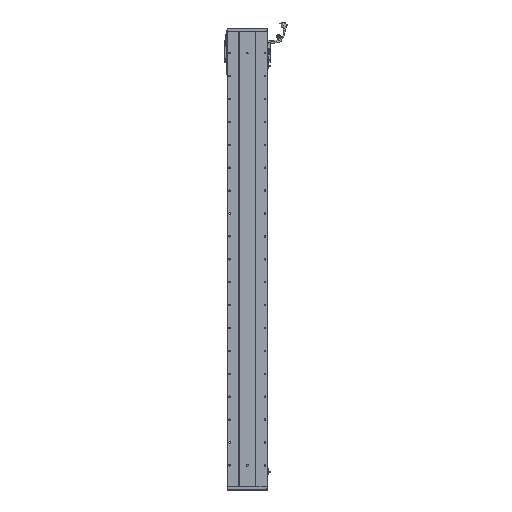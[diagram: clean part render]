
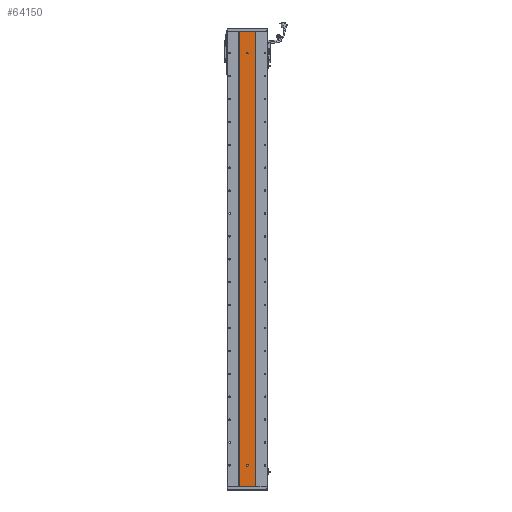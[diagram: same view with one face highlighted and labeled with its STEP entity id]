
A CAD part, front view. The second image highlights one B-rep face of the part: STEP entity #64150.
In plain terms, the highlighted planar face has unit normal (0, -1, 0).
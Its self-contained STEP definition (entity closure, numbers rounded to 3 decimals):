
#1613 = CARTESIAN_POINT ( 'NONE',  ( 3280.529, 1415.701, 92. ) ) ;
#3220 = AXIS2_PLACEMENT_3D ( 'NONE', #94814, #60677, #102551 ) ;
#4824 = DIRECTION ( 'NONE',  ( 0., 0., -1. ) ) ;
#5961 = DIRECTION ( 'NONE',  ( 0., 0., -1. ) ) ;
#7306 = AXIS2_PLACEMENT_3D ( 'NONE', #76299, #68934, #42606 ) ;
#7358 = AXIS2_PLACEMENT_3D ( 'NONE', #79636, #11771, #96886 ) ;
#9310 = VERTEX_POINT ( 'NONE', #51519 ) ;
#9596 = EDGE_CURVE ( 'NONE', #72811, #9310, #92048, .T. ) ;
#9881 = EDGE_CURVE ( 'NONE', #47374, #65259, #93309, .T. ) ;
#9996 = FACE_OUTER_BOUND ( 'NONE', #13265, .T. ) ;
#10094 = DIRECTION ( 'NONE',  ( 0., -1., 0. ) ) ;
#11771 = DIRECTION ( 'NONE',  ( 0., 1., 0. ) ) ;
#13265 = EDGE_LOOP ( 'NONE', ( #69202, #75338, #84199, #80677 ) ) ;
#15940 = VECTOR ( 'NONE', #4824, 1000. ) ;
#18886 = CARTESIAN_POINT ( 'NONE',  ( 3316.311, 1415.701, 0. ) ) ;
#20885 = DIRECTION ( 'NONE',  ( 1., 0., 0. ) ) ;
#21434 = VERTEX_POINT ( 'NONE', #50780 ) ;
#22170 = VERTEX_POINT ( 'NONE', #87656 ) ;
#22861 = CARTESIAN_POINT ( 'NONE',  ( 3280.529, 1415.701, 92. ) ) ;
#23157 = AXIS2_PLACEMENT_3D ( 'NONE', #40872, #65009, #32387 ) ;
#24211 = CARTESIAN_POINT ( 'NONE',  ( 3244.748, 1415.701, 1987. ) ) ;
#26635 = CARTESIAN_POINT ( 'NONE',  ( 3280.529, 1415.701, 1896.5 ) ) ;
#26992 = DIRECTION ( 'NONE',  ( 0., 0., -1. ) ) ;
#27931 = CARTESIAN_POINT ( 'NONE',  ( 3280.529, 1415.701, 89. ) ) ;
#31549 = LINE ( 'NONE', #61566, #53860 ) ;
#32045 = DIRECTION ( 'NONE',  ( 0., -1., 0. ) ) ;
#32387 = DIRECTION ( 'NONE',  ( 0., 0., -1. ) ) ;
#34757 = VERTEX_POINT ( 'NONE', #105997 ) ;
#35725 = ORIENTED_EDGE ( 'NONE', *, *, #62450, .F. ) ;
#37611 = EDGE_CURVE ( 'NONE', #71948, #81847, #52956, .T. ) ;
#38201 = CARTESIAN_POINT ( 'NONE',  ( 3316.311, 1415.701, 1987. ) ) ;
#40872 = CARTESIAN_POINT ( 'NONE',  ( 3280.529, 1415.701, 95. ) ) ;
#42044 = ORIENTED_EDGE ( 'NONE', *, *, #9881, .F. ) ;
#42606 = DIRECTION ( 'NONE',  ( 0., 0., -1. ) ) ;
#44286 = ORIENTED_EDGE ( 'NONE', *, *, #106772, .F. ) ;
#46252 = EDGE_CURVE ( 'NONE', #72811, #104127, #71478, .T. ) ;
#46368 = CIRCLE ( 'NONE', #70207, 3. ) ;
#47374 = VERTEX_POINT ( 'NONE', #26635 ) ;
#47383 = EDGE_CURVE ( 'NONE', #81847, #21434, #46368, .T. ) ;
#48772 = EDGE_LOOP ( 'NONE', ( #92338, #35725, #71754, #44286, #80480 ) ) ;
#49608 = EDGE_LOOP ( 'NONE', ( #70633, #42044 ) ) ;
#50780 = CARTESIAN_POINT ( 'NONE',  ( 3283.529, 1415.701, 92. ) ) ;
#51519 = CARTESIAN_POINT ( 'NONE',  ( 3244.748, 1415.701, 0. ) ) ;
#52956 = CIRCLE ( 'NONE', #71781, 3. ) ;
#53164 = VERTEX_POINT ( 'NONE', #18886 ) ;
#53453 = CARTESIAN_POINT ( 'NONE',  ( 3244.748, 1415.701, 1987. ) ) ;
#53860 = VECTOR ( 'NONE', #103799, 1000. ) ;
#56424 = CARTESIAN_POINT ( 'NONE',  ( 3316.311, 1415.701, 1987. ) ) ;
#60677 = DIRECTION ( 'NONE',  ( 0., -1., 0. ) ) ;
#61116 = CARTESIAN_POINT ( 'NONE',  ( 3277.529, 1415.701, 92. ) ) ;
#61566 = CARTESIAN_POINT ( 'NONE',  ( 3283.529, 1415.701, 95. ) ) ;
#62450 = EDGE_CURVE ( 'NONE', #34757, #71948, #73295, .T. ) ;
#62966 = DIRECTION ( 'NONE',  ( 0., 0., -1. ) ) ;
#63488 = PLANE ( 'NONE',  #7358 ) ;
#64150 = ADVANCED_FACE ( 'NONE', ( #95292, #67677, #9996 ), #63488, .F. ) ;
#65009 = DIRECTION ( 'NONE',  ( 0., -1., 0. ) ) ;
#65259 = VERTEX_POINT ( 'NONE', #80844 ) ;
#65714 = LINE ( 'NONE', #56424, #72329 ) ;
#67677 = FACE_BOUND ( 'NONE', #49608, .T. ) ;
#68048 = EDGE_CURVE ( 'NONE', #22170, #34757, #101345, .T. ) ;
#68934 = DIRECTION ( 'NONE',  ( 0., -1., 0. ) ) ;
#69202 = ORIENTED_EDGE ( 'NONE', *, *, #74209, .T. ) ;
#70207 = AXIS2_PLACEMENT_3D ( 'NONE', #1613, #10094, #26992 ) ;
#70288 = CARTESIAN_POINT ( 'NONE',  ( 3277.529, 1415.701, 95. ) ) ;
#70633 = ORIENTED_EDGE ( 'NONE', *, *, #82294, .F. ) ;
#71342 = VECTOR ( 'NONE', #20885, 1000. ) ;
#71478 = LINE ( 'NONE', #53453, #88551 ) ;
#71754 = ORIENTED_EDGE ( 'NONE', *, *, #68048, .F. ) ;
#71781 = AXIS2_PLACEMENT_3D ( 'NONE', #22861, #32045, #5961 ) ;
#71948 = VERTEX_POINT ( 'NONE', #61116 ) ;
#72329 = VECTOR ( 'NONE', #73248, 1000. ) ;
#72811 = VERTEX_POINT ( 'NONE', #24211 ) ;
#73248 = DIRECTION ( 'NONE',  ( 0., 0., -1. ) ) ;
#73295 = LINE ( 'NONE', #70288, #94362 ) ;
#74209 = EDGE_CURVE ( 'NONE', #9310, #53164, #84536, .T. ) ;
#75104 = CIRCLE ( 'NONE', #3220, 3. ) ;
#75338 = ORIENTED_EDGE ( 'NONE', *, *, #76077, .F. ) ;
#76077 = EDGE_CURVE ( 'NONE', #104127, #53164, #65714, .T. ) ;
#76299 = CARTESIAN_POINT ( 'NONE',  ( 3280.529, 1415.701, 1893.5 ) ) ;
#79636 = CARTESIAN_POINT ( 'NONE',  ( 3244.748, 1415.701, 1987. ) ) ;
#80480 = ORIENTED_EDGE ( 'NONE', *, *, #47383, .F. ) ;
#80677 = ORIENTED_EDGE ( 'NONE', *, *, #9596, .T. ) ;
#80844 = CARTESIAN_POINT ( 'NONE',  ( 3280.529, 1415.701, 1890.5 ) ) ;
#81847 = VERTEX_POINT ( 'NONE', #27931 ) ;
#82294 = EDGE_CURVE ( 'NONE', #65259, #47374, #75104, .T. ) ;
#84199 = ORIENTED_EDGE ( 'NONE', *, *, #46252, .F. ) ;
#84536 = LINE ( 'NONE', #96427, #71342 ) ;
#86786 = DIRECTION ( 'NONE',  ( 1., 0., 0. ) ) ;
#87656 = CARTESIAN_POINT ( 'NONE',  ( 3283.529, 1415.701, 95. ) ) ;
#88551 = VECTOR ( 'NONE', #86786, 1000. ) ;
#92048 = LINE ( 'NONE', #105400, #15940 ) ;
#92338 = ORIENTED_EDGE ( 'NONE', *, *, #37611, .F. ) ;
#93309 = CIRCLE ( 'NONE', #7306, 3. ) ;
#94362 = VECTOR ( 'NONE', #62966, 1000. ) ;
#94814 = CARTESIAN_POINT ( 'NONE',  ( 3280.529, 1415.701, 1893.5 ) ) ;
#95292 = FACE_BOUND ( 'NONE', #48772, .T. ) ;
#96427 = CARTESIAN_POINT ( 'NONE',  ( 3244.748, 1415.701, 0. ) ) ;
#96886 = DIRECTION ( 'NONE',  ( 0., 0., 1. ) ) ;
#101345 = CIRCLE ( 'NONE', #23157, 3. ) ;
#102551 = DIRECTION ( 'NONE',  ( 0., 0., -1. ) ) ;
#103799 = DIRECTION ( 'NONE',  ( 0., 0., 1. ) ) ;
#104127 = VERTEX_POINT ( 'NONE', #38201 ) ;
#105400 = CARTESIAN_POINT ( 'NONE',  ( 3244.748, 1415.701, 1987. ) ) ;
#105997 = CARTESIAN_POINT ( 'NONE',  ( 3277.529, 1415.701, 95. ) ) ;
#106772 = EDGE_CURVE ( 'NONE', #21434, #22170, #31549, .T. ) ;
